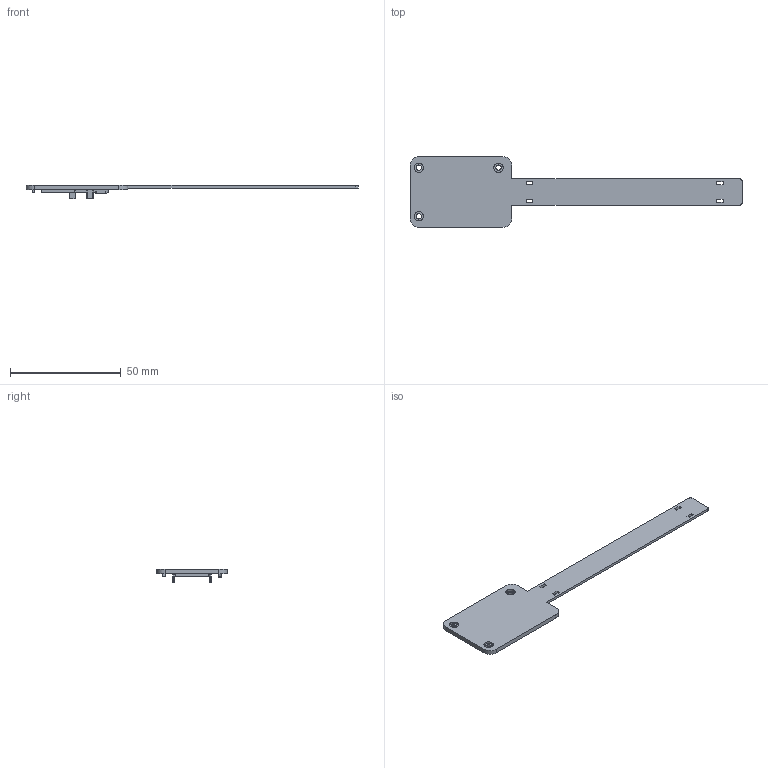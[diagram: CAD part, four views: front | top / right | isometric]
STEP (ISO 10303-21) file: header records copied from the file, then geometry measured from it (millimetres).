
FILE_DESCRIPTION(('Open CASCADE Model'),'2;1');
FILE_NAME('Open CASCADE Shape Model','2026-10-21T17:27:38',('Author'),( 'Open CASCADE'),'Open CASCADE STEP processor 7.9','Open CASCADE 7.9' ,'Unknown');
FILE_SCHEMA(('AUTOMOTIVE_DESIGN { 1 0 10303 214 1 1 1 1 }'));
Length unit declared in the file: millimetre
Products named in the file (1): Open CASCADE STEP translator 7.9 3
Bounding box: 150 x 32 x 5.9 mm (x, y, z)
Volume: 4493.7 mm3; surface area: 6312.8 mm2
Topology: 1 solids, 1 shells, 101 faces, 264 edges, 176 vertices
Faces by surface type: plane 64, cylinder 37
Full cylindrical faces by diameter (mm): 2.4 x3, 4.2 x3
Entity records: 6570 total; most frequent: CARTESIAN_POINT 1316, DIRECTION 954, LINE 554, VECTOR 554, ORIENTED_EDGE 528, PCURVE 528, DEFINITIONAL_REPRESENTATION 528, EDGE_CURVE 264
